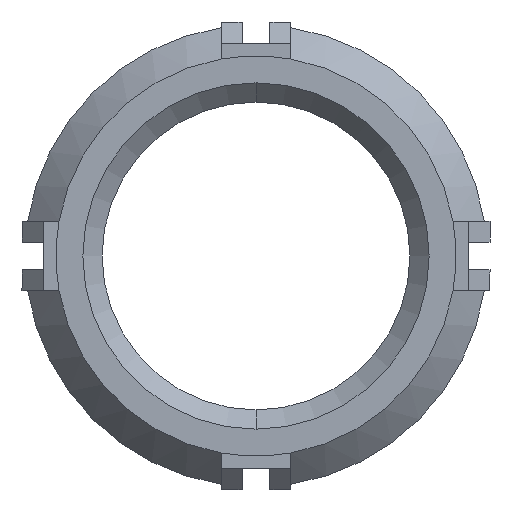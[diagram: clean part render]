
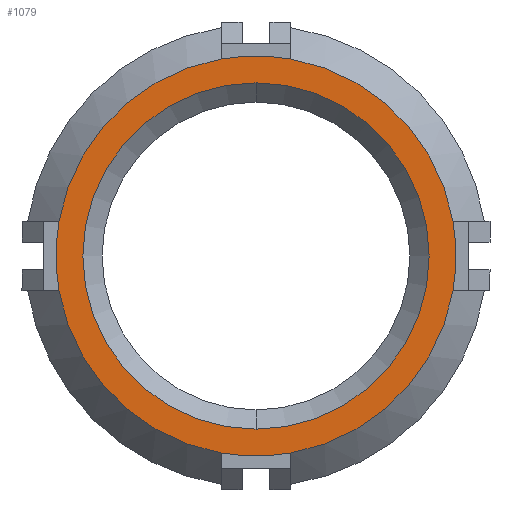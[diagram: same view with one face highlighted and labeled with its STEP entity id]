
A CAD part, front view. The second image highlights one B-rep face of the part: STEP entity #1079.
In plain terms, the highlighted planar face has unit normal (0, -1, 0).
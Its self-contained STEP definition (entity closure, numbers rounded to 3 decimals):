
#5 = CARTESIAN_POINT ( 'NONE',  ( 0., -30., 0. ) ) ;
#19 = CARTESIAN_POINT ( 'NONE',  ( 0., -30., 0. ) ) ;
#26 = AXIS2_PLACEMENT_3D ( 'NONE', #4700, #4156, #4127 ) ;
#55 = CIRCLE ( 'NONE', #5637, 13. ) ;
#112 = DIRECTION ( 'NONE',  ( 0., 0., 1. ) ) ;
#149 = ORIENTED_EDGE ( 'NONE', *, *, #446, .T. ) ;
#182 = DIRECTION ( 'NONE',  ( 1., 0., 0. ) ) ;
#220 = CIRCLE ( 'NONE', #1223, 13. ) ;
#234 = EDGE_CURVE ( 'NONE', #6777, #6605, #1571, .T. ) ;
#399 = VERTEX_POINT ( 'NONE', #2012 ) ;
#417 = DIRECTION ( 'NONE',  ( 0., -1., 0. ) ) ;
#446 = EDGE_CURVE ( 'NONE', #654, #609, #6577, .T. ) ;
#554 = EDGE_CURVE ( 'NONE', #2573, #6777, #2952, .T. ) ;
#609 = VERTEX_POINT ( 'NONE', #4929 ) ;
#654 = VERTEX_POINT ( 'NONE', #5440 ) ;
#662 = DIRECTION ( 'NONE',  ( 0., 1., 0. ) ) ;
#797 = CIRCLE ( 'NONE', #4409, 13. ) ;
#866 = CARTESIAN_POINT ( 'NONE',  ( 12.804, -30., 2.25 ) ) ;
#988 = AXIS2_PLACEMENT_3D ( 'NONE', #3719, #5322, #2720 ) ;
#1065 = EDGE_CURVE ( 'NONE', #5796, #399, #5180, .T. ) ;
#1079 = ADVANCED_FACE ( 'NONE', ( #1800, #5847 ), #4853, .F. ) ;
#1223 = AXIS2_PLACEMENT_3D ( 'NONE', #6350, #2717, #112 ) ;
#1351 = CARTESIAN_POINT ( 'NONE',  ( 0., -30., 0. ) ) ;
#1449 = CARTESIAN_POINT ( 'NONE',  ( -2.25, -30., 12.804 ) ) ;
#1548 = EDGE_CURVE ( 'NONE', #6605, #1666, #3528, .T. ) ;
#1571 = CIRCLE ( 'NONE', #1758, 13. ) ;
#1598 = DIRECTION ( 'NONE',  ( 0., 0., 1. ) ) ;
#1601 = DIRECTION ( 'NONE',  ( 0., 0., 1. ) ) ;
#1658 = DIRECTION ( 'NONE',  ( 0., 0., 1. ) ) ;
#1666 = VERTEX_POINT ( 'NONE', #3026 ) ;
#1729 = ORIENTED_EDGE ( 'NONE', *, *, #554, .T. ) ;
#1758 = AXIS2_PLACEMENT_3D ( 'NONE', #4198, #5318, #182 ) ;
#1800 = FACE_BOUND ( 'NONE', #5965, .T. ) ;
#2012 = CARTESIAN_POINT ( 'NONE',  ( 0., -30., 11.25 ) ) ;
#2218 = CARTESIAN_POINT ( 'NONE',  ( 0., -30., -11.25 ) ) ;
#2307 = ORIENTED_EDGE ( 'NONE', *, *, #4521, .T. ) ;
#2393 = ORIENTED_EDGE ( 'NONE', *, *, #234, .T. ) ;
#2573 = VERTEX_POINT ( 'NONE', #866 ) ;
#2587 = DIRECTION ( 'NONE',  ( 0., -1., 0. ) ) ;
#2717 = DIRECTION ( 'NONE',  ( 0., -1., 0. ) ) ;
#2720 = DIRECTION ( 'NONE',  ( 0., 0., 1. ) ) ;
#2817 = VERTEX_POINT ( 'NONE', #4603 ) ;
#2848 = DIRECTION ( 'NONE',  ( 0., -1., 0. ) ) ;
#2952 = CIRCLE ( 'NONE', #6600, 13. ) ;
#2988 = CIRCLE ( 'NONE', #4513, 11.25 ) ;
#3026 = CARTESIAN_POINT ( 'NONE',  ( -12.804, -30., 2.25 ) ) ;
#3087 = CARTESIAN_POINT ( 'NONE',  ( 2.25, -30., 12.804 ) ) ;
#3172 = CARTESIAN_POINT ( 'NONE',  ( 0., -30., 0. ) ) ;
#3421 = ORIENTED_EDGE ( 'NONE', *, *, #4576, .T. ) ;
#3425 = DIRECTION ( 'NONE',  ( 0., -1., 0. ) ) ;
#3426 = CARTESIAN_POINT ( 'NONE',  ( 0., -30., 0. ) ) ;
#3528 = CIRCLE ( 'NONE', #6185, 13. ) ;
#3701 = AXIS2_PLACEMENT_3D ( 'NONE', #5, #2587, #4045 ) ;
#3719 = CARTESIAN_POINT ( 'NONE',  ( 0., -30., 0. ) ) ;
#3918 = DIRECTION ( 'NONE',  ( 0., 0., 1. ) ) ;
#4045 = DIRECTION ( 'NONE',  ( 0., 0., 1. ) ) ;
#4127 = DIRECTION ( 'NONE',  ( -1., 0., 0. ) ) ;
#4156 = DIRECTION ( 'NONE',  ( 0., -1., 0. ) ) ;
#4198 = CARTESIAN_POINT ( 'NONE',  ( 0., -30., 0. ) ) ;
#4267 = DIRECTION ( 'NONE',  ( 0., -1., 0. ) ) ;
#4409 = AXIS2_PLACEMENT_3D ( 'NONE', #6676, #417, #1601 ) ;
#4513 = AXIS2_PLACEMENT_3D ( 'NONE', #4737, #5718, #1598 ) ;
#4521 = EDGE_CURVE ( 'NONE', #609, #5948, #6392, .T. ) ;
#4576 = EDGE_CURVE ( 'NONE', #2817, #654, #797, .T. ) ;
#4603 = CARTESIAN_POINT ( 'NONE',  ( -12.804, -30., -2.25 ) ) ;
#4644 = ORIENTED_EDGE ( 'NONE', *, *, #5636, .T. ) ;
#4700 = CARTESIAN_POINT ( 'NONE',  ( 0., -30., 0. ) ) ;
#4737 = CARTESIAN_POINT ( 'NONE',  ( 0., -30., 0. ) ) ;
#4794 = DIRECTION ( 'NONE',  ( 0., 0., 1. ) ) ;
#4853 = PLANE ( 'NONE',  #5958 ) ;
#4879 = ORIENTED_EDGE ( 'NONE', *, *, #5765, .T. ) ;
#4929 = CARTESIAN_POINT ( 'NONE',  ( 2.25, -30., -12.804 ) ) ;
#5180 = CIRCLE ( 'NONE', #988, 11.25 ) ;
#5318 = DIRECTION ( 'NONE',  ( 0., -1., 0. ) ) ;
#5322 = DIRECTION ( 'NONE',  ( 0., 1., 0. ) ) ;
#5353 = ORIENTED_EDGE ( 'NONE', *, *, #1065, .T. ) ;
#5417 = EDGE_LOOP ( 'NONE', ( #4879, #3421, #149, #2307, #5715, #1729, #2393, #6583 ) ) ;
#5440 = CARTESIAN_POINT ( 'NONE',  ( -2.25, -30., -12.804 ) ) ;
#5636 = EDGE_CURVE ( 'NONE', #399, #5796, #2988, .T. ) ;
#5637 = AXIS2_PLACEMENT_3D ( 'NONE', #1351, #3425, #6113 ) ;
#5715 = ORIENTED_EDGE ( 'NONE', *, *, #6561, .T. ) ;
#5718 = DIRECTION ( 'NONE',  ( 0., 1., 0. ) ) ;
#5765 = EDGE_CURVE ( 'NONE', #1666, #2817, #220, .T. ) ;
#5796 = VERTEX_POINT ( 'NONE', #2218 ) ;
#5847 = FACE_OUTER_BOUND ( 'NONE', #5417, .T. ) ;
#5948 = VERTEX_POINT ( 'NONE', #6520 ) ;
#5958 = AXIS2_PLACEMENT_3D ( 'NONE', #3172, #662, #1658 ) ;
#5965 = EDGE_LOOP ( 'NONE', ( #5353, #4644 ) ) ;
#6113 = DIRECTION ( 'NONE',  ( 0., 0., -1. ) ) ;
#6185 = AXIS2_PLACEMENT_3D ( 'NONE', #3426, #2848, #3918 ) ;
#6350 = CARTESIAN_POINT ( 'NONE',  ( 0., -30., 0. ) ) ;
#6392 = CIRCLE ( 'NONE', #3701, 13. ) ;
#6520 = CARTESIAN_POINT ( 'NONE',  ( 12.804, -30., -2.25 ) ) ;
#6561 = EDGE_CURVE ( 'NONE', #5948, #2573, #55, .T. ) ;
#6577 = CIRCLE ( 'NONE', #26, 13. ) ;
#6583 = ORIENTED_EDGE ( 'NONE', *, *, #1548, .T. ) ;
#6600 = AXIS2_PLACEMENT_3D ( 'NONE', #19, #4267, #4794 ) ;
#6605 = VERTEX_POINT ( 'NONE', #1449 ) ;
#6676 = CARTESIAN_POINT ( 'NONE',  ( 0., -30., 0. ) ) ;
#6777 = VERTEX_POINT ( 'NONE', #3087 ) ;
